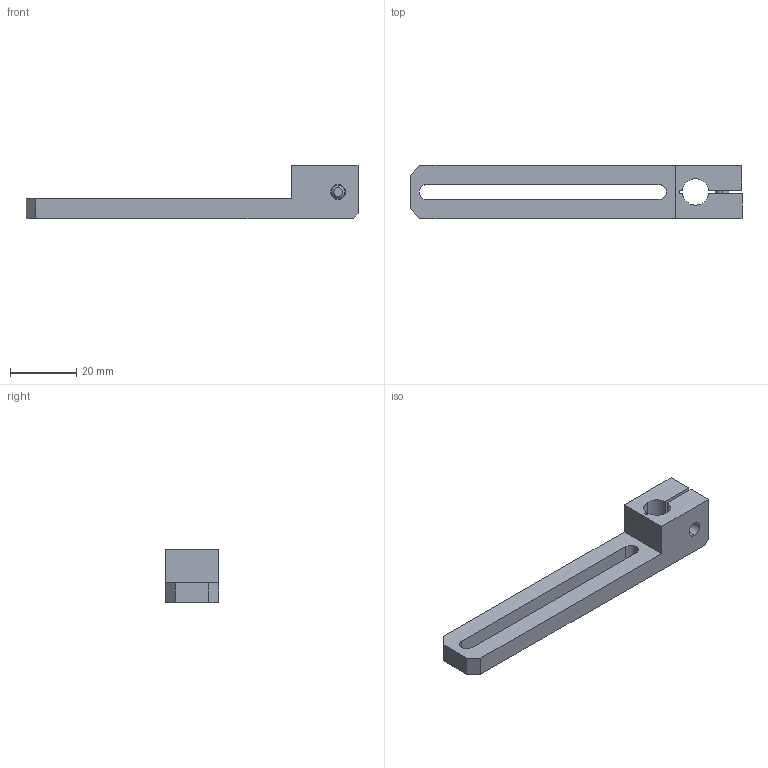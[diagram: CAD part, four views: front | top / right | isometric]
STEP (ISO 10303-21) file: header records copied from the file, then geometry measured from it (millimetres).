
FILE_DESCRIPTION (( 'STEP AP214' ), '1' );
FILE_NAME ('SCF4-0870W12T.STEP', '2023-01-17T03:20:17', ( 'Windows User' ), ( 'P R C' ), 'SwSTEP 2.0', 'SolidWorks 2019', '' );
FILE_SCHEMA (( 'AUTOMOTIVE_DESIGN' ));
Length unit declared in the file: millimetre
Products named in the file (1): SCF4-0870W12T
Bounding box: 100 x 16 x 16 mm (x, y, z)
Volume: 9550.2 mm3; surface area: 6694.4 mm2
Topology: 3 solids, 3 shells, 247 faces, 708 edges, 468 vertices
Faces by surface type: plane 223, cylinder 20, cone 2, bspline 2
Entity records: 11002 total; most frequent: CARTESIAN_POINT 1548, DIRECTION 1422, ORIENTED_EDGE 1416, EDGE_CURVE 708, VECTOR 478, LINE 478, AXIS2_PLACEMENT_3D 472, VERTEX_POINT 468
